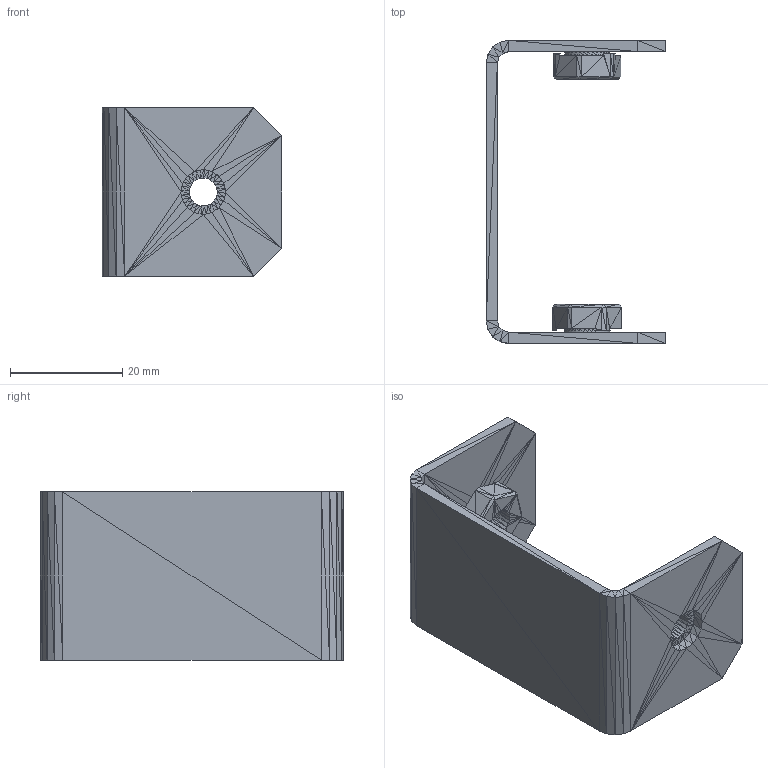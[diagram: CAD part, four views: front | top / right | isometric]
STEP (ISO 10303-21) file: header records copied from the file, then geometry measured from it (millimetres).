
FILE_DESCRIPTION((''),'2;1');
FILE_NAME('051087', '2026-01-28T15:26:31', (''), (''), 'ImageToStl.com STEP Converter','', '');
FILE_SCHEMA(('AUTOMOTIVE_DESIGN_CC2'));
Length unit declared in the file: metre
Products named in the file (1): product0
Bounding box: 32 x 54 x 30 mm (x, y, z)
Surface area: 7867.3 mm2 (no closed solid volume)
Topology: 0 solids, 860 shells, 860 faces, 2580 edges, 428 vertices
Faces by surface type: plane 860
Entity records: 19804 total; most frequent: DIRECTION 4302, ORIENTED_EDGE 2580, EDGE_CURVE 2580, LINE 2580, VECTOR 2580, AXIS2_PLACEMENT_3D 861, FACE_SURFACE 860, PLANE 860
